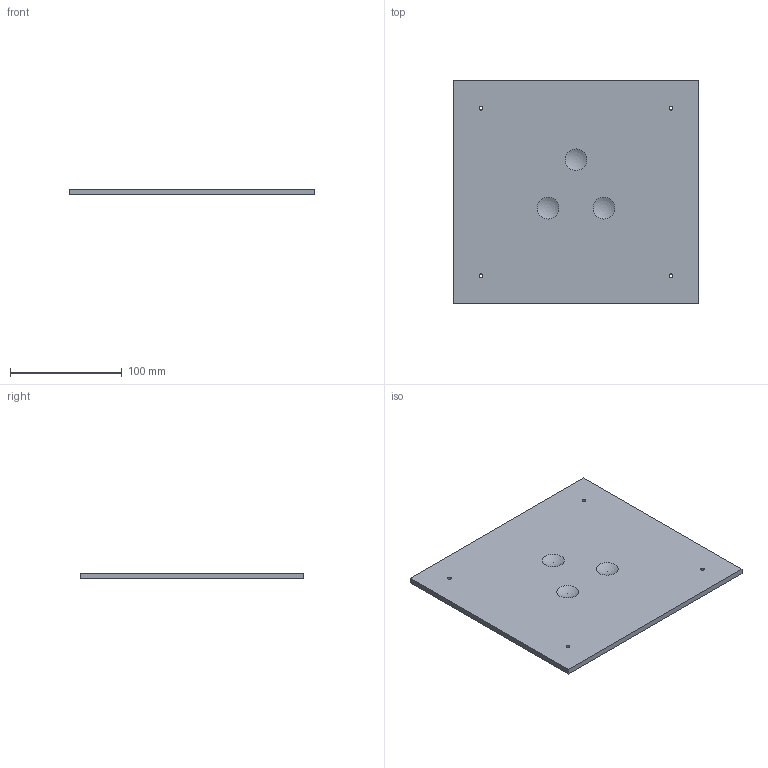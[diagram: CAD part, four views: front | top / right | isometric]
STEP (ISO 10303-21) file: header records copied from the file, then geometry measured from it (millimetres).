
FILE_DESCRIPTION(('Open CASCADE Model'),'2;1');
FILE_NAME('Open CASCADE Shape Model','2026-10-21T16:54:02',('Author'),( 'Open CASCADE'),'Open CASCADE STEP processor 7.9','Open CASCADE 7.9' ,'Unknown');
FILE_SCHEMA(('AUTOMOTIVE_DESIGN { 1 0 10303 214 1 1 1 1 }'));
Length unit declared in the file: millimetre
Products named in the file (1): Open CASCADE STEP translator 7.9 44
Bounding box: 220 x 200 x 5 mm (x, y, z)
Volume: 218677.6 mm3; surface area: 92399.9 mm2
Topology: 1 solids, 1 shells, 13 faces, 33 edges, 22 vertices
Faces by surface type: plane 6, cylinder 4, sphere 3
Full cylindrical faces by diameter (mm): 3.4 x4
Entity records: 826 total; most frequent: CARTESIAN_POINT 174, DIRECTION 124, LINE 65, VECTOR 65, ORIENTED_EDGE 60, PCURVE 60, DEFINITIONAL_REPRESENTATION 60, EDGE_CURVE 30
